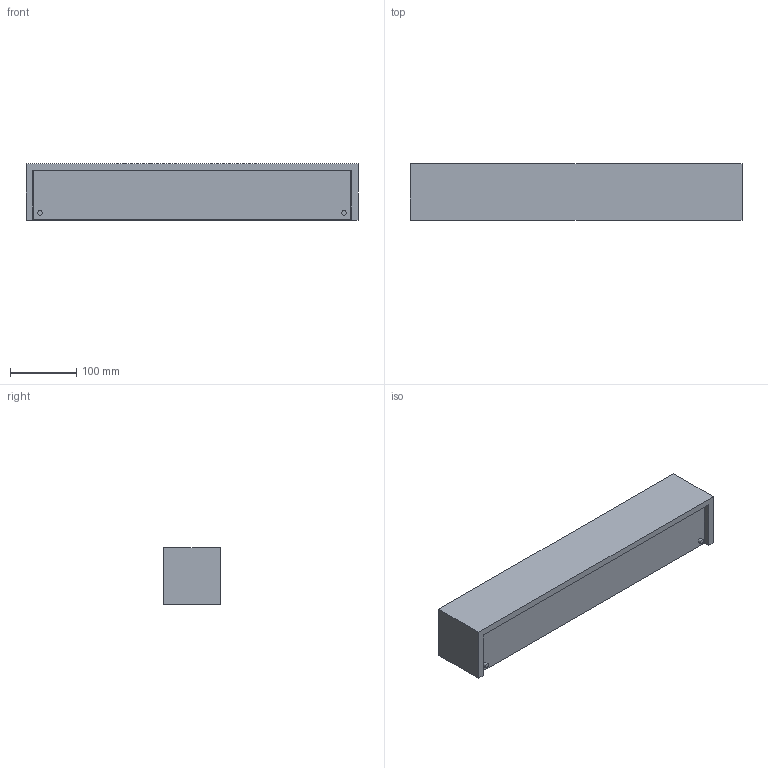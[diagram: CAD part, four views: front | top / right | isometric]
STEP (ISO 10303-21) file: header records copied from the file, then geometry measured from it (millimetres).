
FILE_DESCRIPTION(/* description */ (''),/* implementation_level */ '2;1');
FILE_NAME(/* name */ '63422.step',/* time_stamp */ '2024-05-27T17:20:26+02:00',/* author */ ('RenataManzini'),/* organization */ (''),/* preprocessor_version */ 'ST-DEVELOPER v20',/* originating_system */ 'AutoCAD Mechanical',/* authorisation */ '');
FILE_SCHEMA (('AUTOMOTIVE_DESIGN { 1 0 10303 214 3 1 1 }'));
Length unit declared in the file: millimetre
Products named in the file (2): Product; Milo_500 - lamp-726599-_3D_
Assembly tree (1 placements, depth 2):
  Product
    Milo_500 - lamp-726599-_3D_
Bounding box: 500 x 85 x 85 mm (x, y, z)
Volume: 1205665.4 mm3; surface area: 410389.7 mm2
Topology: 10 solids, 62 shells, 163 faces, 515 edges, 425 vertices
Faces by surface type: plane 99, cylinder 56, bspline 4, sphere 4
Entity records: 10608 total; most frequent: CARTESIAN_POINT 6073, DIRECTION 790, ORIENTED_EDGE 764, EDGE_CURVE 512, VERTEX_POINT 420, LINE 352, VECTOR 352, AXIS2_PLACEMENT_3D 219
